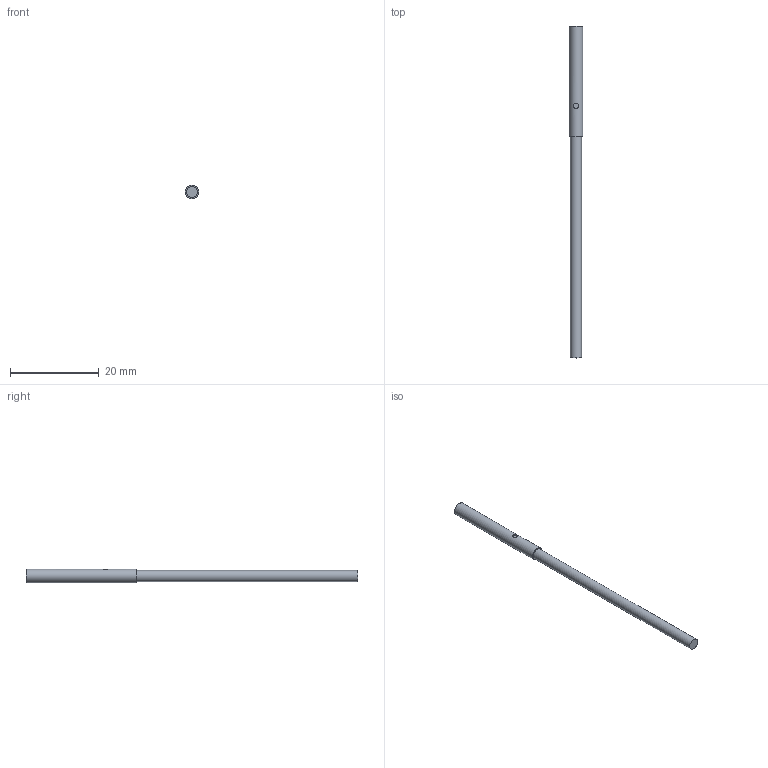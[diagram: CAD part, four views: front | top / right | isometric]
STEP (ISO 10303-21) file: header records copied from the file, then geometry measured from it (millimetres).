
FILE_DESCRIPTION(/* description */ (''),/* implementation_level */ '2;1');
FILE_NAME(/* name */ 'F:\HUAYIFENG\01)HUAYIFENG_宣传文件\01)HUAYIFENG_\X2\5BA34F2065874EF6\X0\_产品资料整合\03)产品3D文档\04)产品3D_接近系列_K12_2019\超小圆柱型接近传感器\PPE03.stp',/* time_stamp */ '2019-07-24T16:11:19+08:00',/* author */ ('fengjiarun'),/* organization */ (''),/* preprocessor_version */ 'ST-DEVELOPER v16.5',/* originating_system */ 'Autodesk Inventor 2017',/* authorisation */ '');
FILE_SCHEMA (('AUTOMOTIVE_DESIGN { 1 0 10303 214 3 1 1 }'));
Length unit declared in the file: millimetre
Products named in the file (1): PPE03
Bounding box: 3 x 75 x 3 mm (x, y, z)
Volume: 421.7 mm3; surface area: 643.3 mm2
Topology: 1 solids, 1 shells, 8 faces, 13 edges, 9 vertices
Faces by surface type: plane 4, cylinder 3, torus 1
Full cylindrical faces by diameter (mm): 1.2 x1, 2.5 x1, 3 x1
Entity records: 217 total; most frequent: CARTESIAN_POINT 60, DIRECTION 30, ORIENTED_EDGE 16, AXIS2_PLACEMENT_3D 15, EDGE_LOOP 14, FACE_OUTER_BOUND 8, VERTEX_POINT 8, EDGE_CURVE 8
